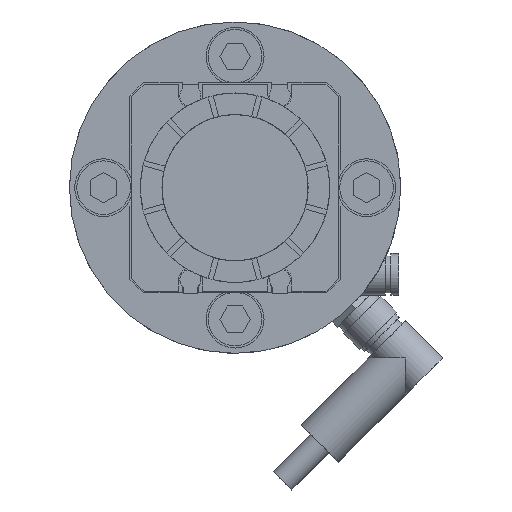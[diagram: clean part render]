
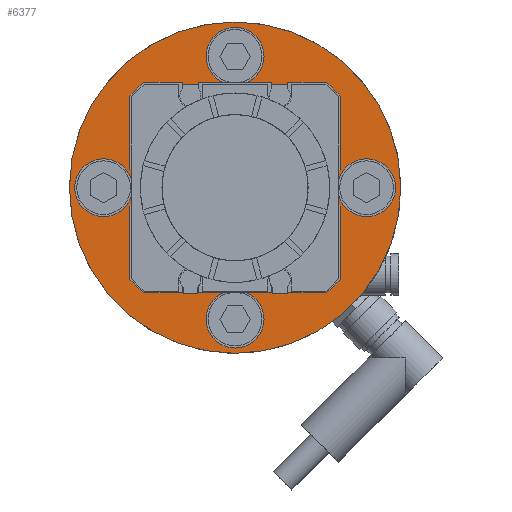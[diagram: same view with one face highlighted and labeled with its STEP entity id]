
A CAD part, front view. The second image highlights one B-rep face of the part: STEP entity #6377.
In plain terms, the highlighted planar face has unit normal (0, -1, 0).
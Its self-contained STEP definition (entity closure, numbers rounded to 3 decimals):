
#375=CIRCLE('',#8493,31.5);
#376=CIRCLE('',#8495,5.5);
#377=CIRCLE('',#8496,5.5);
#378=CIRCLE('',#8497,5.5);
#379=CIRCLE('',#8498,5.5);
#1711=ORIENTED_EDGE('',*,*,#2790,.F.);
#1712=ORIENTED_EDGE('',*,*,#2791,.F.);
#1713=ORIENTED_EDGE('',*,*,#2792,.T.);
#1714=ORIENTED_EDGE('',*,*,#2793,.T.);
#1715=ORIENTED_EDGE('',*,*,#2794,.T.);
#2790=EDGE_CURVE('',#3467,#3467,#375,.T.);
#2791=EDGE_CURVE('',#3468,#3468,#376,.F.);
#2792=EDGE_CURVE('',#3469,#3469,#377,.T.);
#2793=EDGE_CURVE('',#3470,#3470,#378,.T.);
#2794=EDGE_CURVE('',#3471,#3471,#379,.T.);
#3467=VERTEX_POINT('',#12024);
#3468=VERTEX_POINT('',#12027);
#3469=VERTEX_POINT('',#12029);
#3470=VERTEX_POINT('',#12031);
#3471=VERTEX_POINT('',#12033);
#5114=EDGE_LOOP('',(#1711));
#5115=EDGE_LOOP('',(#1712));
#5116=EDGE_LOOP('',(#1713));
#5117=EDGE_LOOP('',(#1714));
#5118=EDGE_LOOP('',(#1715));
#5662=FACE_BOUND('',#5114,.T.);
#5663=FACE_BOUND('',#5115,.T.);
#5664=FACE_BOUND('',#5116,.T.);
#5665=FACE_BOUND('',#5117,.T.);
#5666=FACE_BOUND('',#5118,.T.);
#6020=PLANE('',#8494);
#6377=ADVANCED_FACE('',(#5662,#5663,#5664,#5665,#5666),#6020,.F.);
#8493=AXIS2_PLACEMENT_3D('',#12023,#10090,#10091);
#8494=AXIS2_PLACEMENT_3D('',#12025,#10092,#10093);
#8495=AXIS2_PLACEMENT_3D('',#12026,#10094,#10095);
#8496=AXIS2_PLACEMENT_3D('',#12028,#10096,#10097);
#8497=AXIS2_PLACEMENT_3D('',#12030,#10098,#10099);
#8498=AXIS2_PLACEMENT_3D('',#12032,#10100,#10101);
#10090=DIRECTION('',(0.,1.,0.));
#10091=DIRECTION('',(0.,0.,1.));
#10092=DIRECTION('',(0.,1.,0.));
#10093=DIRECTION('',(0.,0.,1.));
#10094=DIRECTION('',(0.,1.,0.));
#10095=DIRECTION('',(0.,0.,1.));
#10096=DIRECTION('',(0.,1.,0.));
#10097=DIRECTION('',(0.,0.,1.));
#10098=DIRECTION('',(0.,1.,0.));
#10099=DIRECTION('',(0.,0.,1.));
#10100=DIRECTION('',(0.,1.,0.));
#10101=DIRECTION('',(0.,0.,1.));
#12023=CARTESIAN_POINT('',(0.,0.,0.));
#12024=CARTESIAN_POINT('',(0.,0.,31.5));
#12025=CARTESIAN_POINT('',(0.,0.,0.));
#12026=CARTESIAN_POINT('',(-25.,0.,0.));
#12027=CARTESIAN_POINT('',(-25.,0.,5.5));
#12028=CARTESIAN_POINT('',(25.,0.,0.));
#12029=CARTESIAN_POINT('',(25.,0.,5.5));
#12030=CARTESIAN_POINT('',(0.,0.,25.));
#12031=CARTESIAN_POINT('',(0.,0.,30.5));
#12032=CARTESIAN_POINT('',(0.,0.,-25.));
#12033=CARTESIAN_POINT('',(0.,0.,-19.5));
